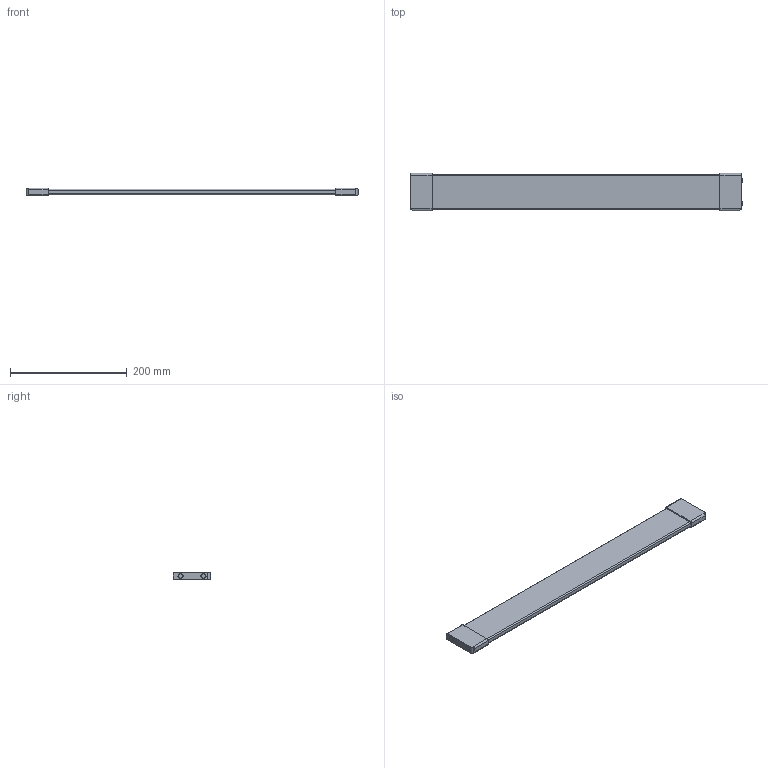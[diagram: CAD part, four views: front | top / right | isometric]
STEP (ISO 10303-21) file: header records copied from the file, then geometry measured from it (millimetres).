
FILE_DESCRIPTION (( 'STEP AP214' ), '1' );
FILE_NAME ('Schubkastenteiler_PROKAB_650.step', '2009-11-04T15:16:45', ( 'Waldinger Reinhard' ), ( 'Grass GmbH' ), 'SwSTEP 2.0', 'SolidWorks 2009', '' );
FILE_SCHEMA (( 'AUTOMOTIVE_DESIGN' ));
Length unit declared in the file: millimetre
Products named in the file (1): Schubkastenteiler_PROKAB_650
Bounding box: 567.9 x 63.7 x 13 mm (x, y, z)
Volume: 347846.3 mm3; surface area: 79840.4 mm2
Topology: 1 solids, 1 shells, 92 faces, 208 edges, 124 vertices
Faces by surface type: cylinder 38, torus 28, plane 22, bspline 4
Entity records: 3210 total; most frequent: CARTESIAN_POINT 1069, DIRECTION 486, ORIENTED_EDGE 416, EDGE_CURVE 208, AXIS2_PLACEMENT_3D 205, VERTEX_POINT 124, CIRCLE 116, EDGE_LOOP 98
